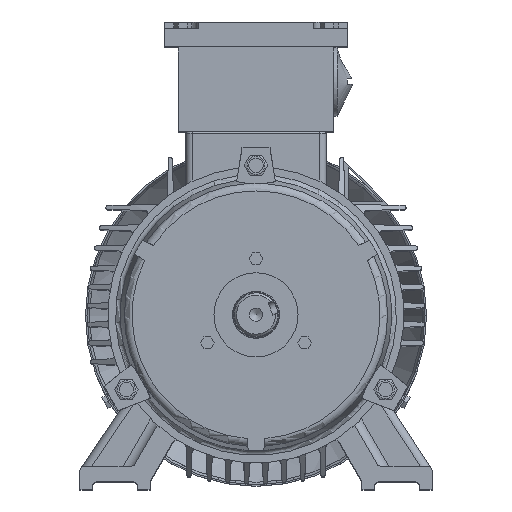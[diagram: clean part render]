
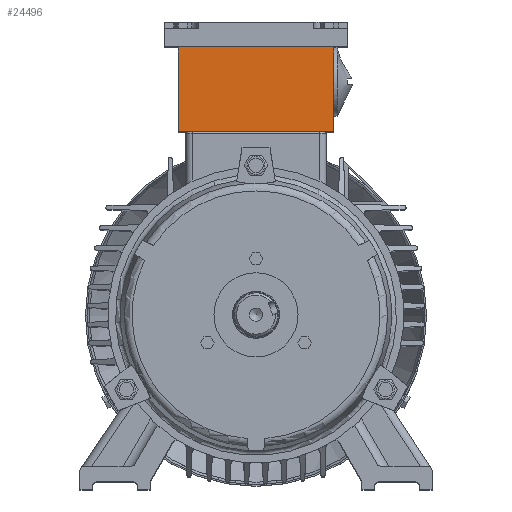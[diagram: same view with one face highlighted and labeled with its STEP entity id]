
A CAD part, top view. The second image highlights one B-rep face of the part: STEP entity #24496.
In plain terms, the highlighted planar face has unit normal (0, 0, 1).
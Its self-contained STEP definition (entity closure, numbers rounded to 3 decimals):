
#329=PLANE('',#26046);
#1261=FACE_OUTER_BOUND('',#2695,.T.);
#2695=EDGE_LOOP('',(#16579,#16580,#16581,#16582));
#5315=LINE('',#36638,#7523);
#5325=LINE('',#36657,#7533);
#5366=LINE('',#36752,#7574);
#5367=LINE('',#36753,#7575);
#7523=VECTOR('',#28666,1000.);
#7533=VECTOR('',#28678,1000.);
#7574=VECTOR('',#28737,1000.);
#7575=VECTOR('',#28738,1000.);
#10201=VERTEX_POINT('',#36635);
#10202=VERTEX_POINT('',#36637);
#10210=VERTEX_POINT('',#36655);
#10255=VERTEX_POINT('',#36751);
#12720=EDGE_CURVE('',#10201,#10202,#5315,.T.);
#12730=EDGE_CURVE('',#10210,#10201,#5325,.T.);
#12775=EDGE_CURVE('',#10210,#10255,#5366,.T.);
#12776=EDGE_CURVE('',#10255,#10202,#5367,.T.);
#16579=ORIENTED_EDGE('',*,*,#12730,.F.);
#16580=ORIENTED_EDGE('',*,*,#12775,.T.);
#16581=ORIENTED_EDGE('',*,*,#12776,.T.);
#16582=ORIENTED_EDGE('',*,*,#12720,.F.);
#24496=ADVANCED_FACE('',(#1261),#329,.F.);
#26046=AXIS2_PLACEMENT_3D('',#36750,#28735,#28736);
#28666=DIRECTION('',(0.,-1.,0.));
#28678=DIRECTION('',(1.,0.,0.));
#28735=DIRECTION('center_axis',(0.,0.,-1.));
#28736=DIRECTION('ref_axis',(-1.,0.,0.));
#28737=DIRECTION('',(0.,-1.,0.));
#28738=DIRECTION('',(1.,0.,0.));
#36635=CARTESIAN_POINT('',(50.,172.,-4.));
#36637=CARTESIAN_POINT('',(50.,117.5,-4.));
#36638=CARTESIAN_POINT('',(50.,177.5,-4.));
#36655=CARTESIAN_POINT('',(-50.,172.,-4.));
#36657=CARTESIAN_POINT('',(-50.,172.,-4.));
#36750=CARTESIAN_POINT('Origin',(-50.,177.5,-4.));
#36751=CARTESIAN_POINT('',(-50.,117.5,-4.));
#36752=CARTESIAN_POINT('',(-50.,177.5,-4.));
#36753=CARTESIAN_POINT('',(-50.,117.5,-4.));
